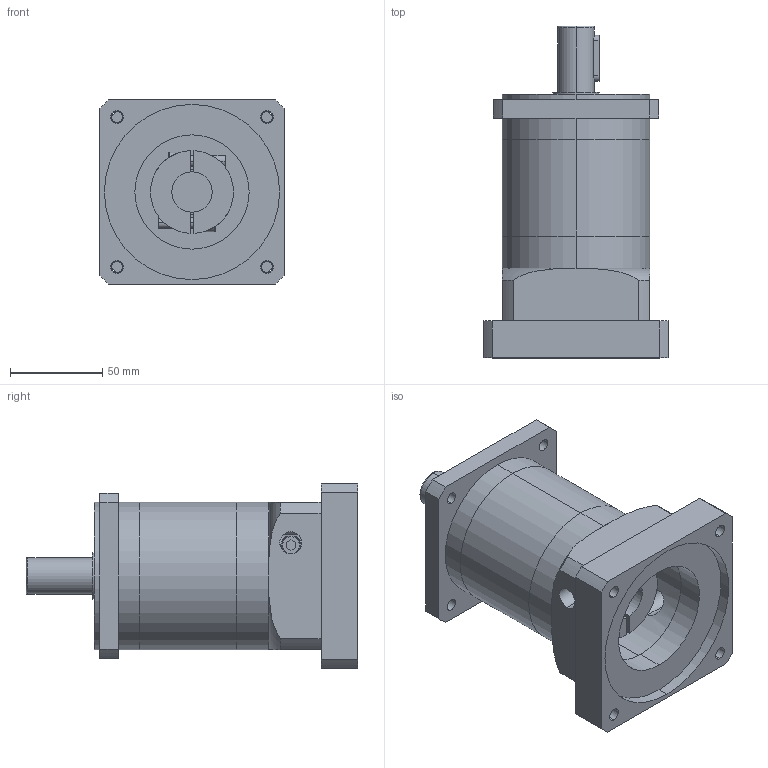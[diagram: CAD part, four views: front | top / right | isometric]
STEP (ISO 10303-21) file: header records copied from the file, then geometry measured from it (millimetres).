
FILE_DESCRIPTION (( 'STEP AP203' ), '1' );
FILE_NAME ('WPF080ﾐﾂ-L1(750W)ﾍ簟ﾎﾍｼ(19-61-95-115-M8).STEP', '2019-08-08T03:51:09', ( 'Windows' ), ( 'Microsoft' ), 'SwSTEP 2.0', 'SolidWorks 2016', '' );
FILE_SCHEMA (( 'CONFIG_CONTROL_DESIGN' ));
Length unit declared in the file: millimetre
Products named in the file (1): WPF080ﾐﾂ-L1(750W)ﾍ簟ﾎﾍｼ(19-61-95-115-M8)
Bounding box: 100 x 180 x 100 mm (x, y, z)
Volume: 722142.1 mm3; surface area: 112165.5 mm2
Topology: 4 solids, 8 shells, 195 faces, 452 edges, 283 vertices
Faces by surface type: cylinder 94, plane 69, cone 22, torus 10
Entity records: 6207 total; most frequent: CARTESIAN_POINT 1557, DIRECTION 1018, ORIENTED_EDGE 884, EDGE_CURVE 442, AXIS2_PLACEMENT_3D 404, VERTEX_POINT 283, EDGE_LOOP 241, LINE 210
